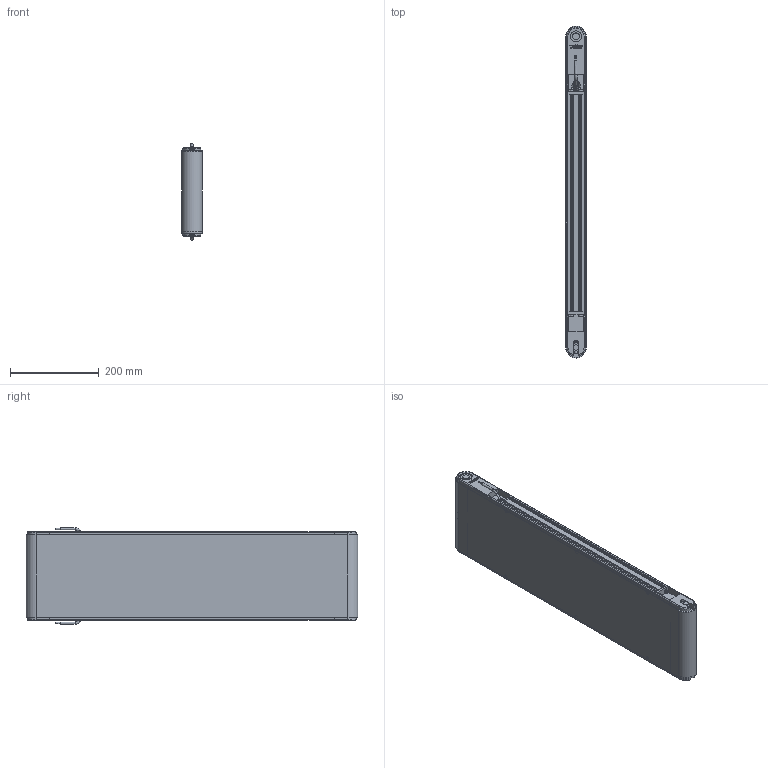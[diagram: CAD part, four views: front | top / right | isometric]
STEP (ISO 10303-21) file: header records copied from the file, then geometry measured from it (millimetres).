
FILE_DESCRIPTION(/* description */ (''),/* implementation_level */ '2;1');
FILE_NAME(/* name */ 'G:\DATEN\CAD\Förderband\Marketing\3D-Modelle (Standard)\FR-40-200\FR-40-200-700-K.stp',/* time_stamp */ '2019-05-08T09:20:39+02:00',/* author */ ('melanie.ochs'),/* organization */ (''),/* preprocessor_version */ 'ST-DEVELOPER v17',/* originating_system */ 'Autodesk Inventor 2019',/* authorisation */ '');
FILE_SCHEMA (('CONFIG_CONTROL_DESIGN'));
Length unit declared in the file: centimetre
Products named in the file (1): FR-40-200-700-K
Bounding box: 46.6 x 746.6 x 217.07 mm (x, y, z)
Volume: 2656632 mm3; surface area: 991182.9 mm2
Topology: 7 solids, 25 shells, 1130 faces, 3051 edges, 2017 vertices
Faces by surface type: plane 561, cylinder 330, bspline 124, cone 77, torus 38
Full cylindrical faces by diameter (mm): 2 x4, 4 x6, 4.3 x4, 4.917 x1, 5 x14, 5.5 x8, 6 x4, 6.647 x2, 8 x4, 8.3 x6, 8.5 x8, 8.773 x2, 10 x2, 11 x2, 12 x3, 15 x2, 20 x4, 25 x2, 28 x4
Entity records: 38330 total; most frequent: CARTESIAN_POINT 9262, ORIENTED_EDGE 6078, DIRECTION 5523, EDGE_CURVE 3039, VERTEX_POINT 2017, AXIS2_PLACEMENT_3D 1955, LINE 1613, VECTOR 1613
